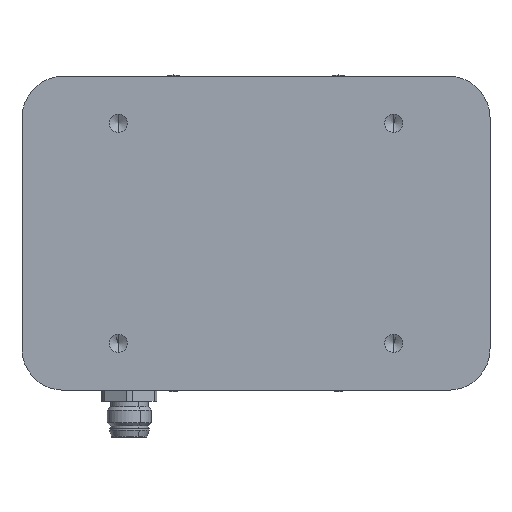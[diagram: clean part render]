
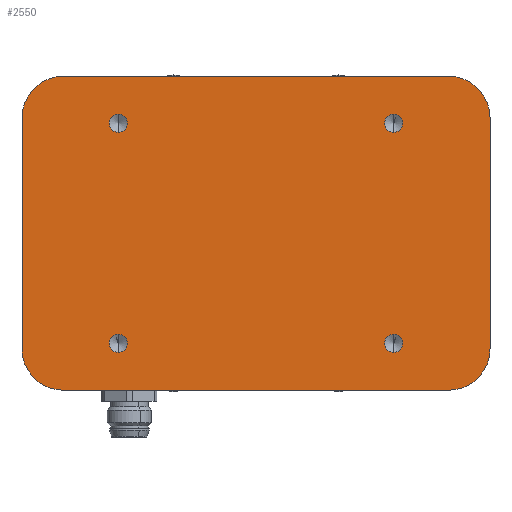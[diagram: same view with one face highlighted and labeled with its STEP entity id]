
A CAD part, front view. The second image highlights one B-rep face of the part: STEP entity #2550.
In plain terms, the highlighted planar face has unit normal (0, -1, 0).
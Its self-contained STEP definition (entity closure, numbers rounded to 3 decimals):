
#4 = AXIS2_PLACEMENT_3D ( 'NONE', #6138, #2638, #4396 ) ;
#73 = CARTESIAN_POINT ( 'NONE',  ( -13.359, 12.047, 12.1 ) ) ;
#135 = DIRECTION ( 'NONE',  ( 1., 0., 0. ) ) ;
#199 = VERTEX_POINT ( 'NONE', #3820 ) ;
#205 = DIRECTION ( 'NONE',  ( 0., -1., 0. ) ) ;
#215 = EDGE_LOOP ( 'NONE', ( #7204, #430 ) ) ;
#256 = AXIS2_PLACEMENT_3D ( 'NONE', #6021, #4292, #4939 ) ;
#316 = CARTESIAN_POINT ( 'NONE',  ( -5.859, 12.047, 12.1 ) ) ;
#363 = FACE_OUTER_BOUND ( 'NONE', #595, .T. ) ;
#364 = ORIENTED_EDGE ( 'NONE', *, *, #2060, .F. ) ;
#373 = LINE ( 'NONE', #2214, #3254 ) ;
#430 = ORIENTED_EDGE ( 'NONE', *, *, #6643, .F. ) ;
#490 = EDGE_CURVE ( 'NONE', #7483, #3399, #1260, .T. ) ;
#595 = EDGE_LOOP ( 'NONE', ( #1897, #6106, #6413, #7272, #5756, #4804, #4907, #3825 ) ) ;
#712 = FACE_BOUND ( 'NONE', #215, .T. ) ;
#734 = LINE ( 'NONE', #73, #6291 ) ;
#790 = CARTESIAN_POINT ( 'NONE',  ( 64.141, 12.047, 61.6 ) ) ;
#886 = AXIS2_PLACEMENT_3D ( 'NONE', #2321, #2280, #1670 ) ;
#967 = CARTESIAN_POINT ( 'NONE',  ( 71.641, 12.047, 19.6 ) ) ;
#1007 = CIRCLE ( 'NONE', #6783, 1.65 ) ;
#1148 = CARTESIAN_POINT ( 'NONE',  ( 54.141, 12.047, 20.6 ) ) ;
#1162 = AXIS2_PLACEMENT_3D ( 'NONE', #790, #205, #135 ) ;
#1205 = CARTESIAN_POINT ( 'NONE',  ( -13.359, 12.047, 69.1 ) ) ;
#1227 = CARTESIAN_POINT ( 'NONE',  ( 4.141, 12.047, 58.95 ) ) ;
#1245 = CARTESIAN_POINT ( 'NONE',  ( 4.141, 12.047, 20.6 ) ) ;
#1260 = CIRCLE ( 'NONE', #4, 1.65 ) ;
#1326 = CIRCLE ( 'NONE', #4143, 7.5 ) ;
#1443 = DIRECTION ( 'NONE',  ( 0., -1., 0. ) ) ;
#1495 = CIRCLE ( 'NONE', #2306, 1.65 ) ;
#1619 = DIRECTION ( 'NONE',  ( 0., 0., -1. ) ) ;
#1665 = EDGE_CURVE ( 'NONE', #7218, #5313, #373, .T. ) ;
#1670 = DIRECTION ( 'NONE',  ( 1., 0., 0. ) ) ;
#1717 = EDGE_CURVE ( 'NONE', #5119, #199, #6182, .T. ) ;
#1721 = VERTEX_POINT ( 'NONE', #2917 ) ;
#1887 = VERTEX_POINT ( 'NONE', #7200 ) ;
#1897 = ORIENTED_EDGE ( 'NONE', *, *, #2996, .F. ) ;
#1937 = CIRCLE ( 'NONE', #3851, 1.65 ) ;
#1947 = ORIENTED_EDGE ( 'NONE', *, *, #5534, .F. ) ;
#1989 = DIRECTION ( 'NONE',  ( 0., -1., 0. ) ) ;
#2056 = FACE_BOUND ( 'NONE', #7480, .T. ) ;
#2060 = EDGE_CURVE ( 'NONE', #199, #5119, #4016, .T. ) ;
#2071 = CARTESIAN_POINT ( 'NONE',  ( 4.141, 12.047, 62.25 ) ) ;
#2074 = DIRECTION ( 'NONE',  ( 1., 0., 0. ) ) ;
#2083 = AXIS2_PLACEMENT_3D ( 'NONE', #4398, #1989, #3876 ) ;
#2136 = DIRECTION ( 'NONE',  ( 0., 0., -1. ) ) ;
#2199 = CARTESIAN_POINT ( 'NONE',  ( 64.141, 12.047, 12.1 ) ) ;
#2207 = EDGE_CURVE ( 'NONE', #4882, #1721, #734, .T. ) ;
#2214 = CARTESIAN_POINT ( 'NONE',  ( 71.641, 12.047, 12.1 ) ) ;
#2280 = DIRECTION ( 'NONE',  ( 0., -1., 0. ) ) ;
#2306 = AXIS2_PLACEMENT_3D ( 'NONE', #1148, #5857, #5809 ) ;
#2321 = CARTESIAN_POINT ( 'NONE',  ( -13.359, 12.047, 12.1 ) ) ;
#2426 = CARTESIAN_POINT ( 'NONE',  ( 54.141, 12.047, 62.25 ) ) ;
#2484 = EDGE_CURVE ( 'NONE', #7148, #2711, #5173, .T. ) ;
#2510 = DIRECTION ( 'NONE',  ( 0., 0., -1. ) ) ;
#2550 = ADVANCED_FACE ( 'NONE', ( #3241, #712, #4974, #2056, #363 ), #5164, .T. ) ;
#2559 = CARTESIAN_POINT ( 'NONE',  ( 54.141, 12.047, 22.25 ) ) ;
#2593 = CIRCLE ( 'NONE', #256, 7.5 ) ;
#2638 = DIRECTION ( 'NONE',  ( 0., -1., 0. ) ) ;
#2711 = VERTEX_POINT ( 'NONE', #2426 ) ;
#2806 = DIRECTION ( 'NONE',  ( 0., 0., 1. ) ) ;
#2835 = EDGE_LOOP ( 'NONE', ( #5234, #6559 ) ) ;
#2851 = EDGE_CURVE ( 'NONE', #1887, #1721, #3543, .T. ) ;
#2917 = CARTESIAN_POINT ( 'NONE',  ( -13.359, 12.047, 61.6 ) ) ;
#2987 = CARTESIAN_POINT ( 'NONE',  ( 54.141, 12.047, 58.95 ) ) ;
#2996 = EDGE_CURVE ( 'NONE', #1887, #5221, #3461, .T. ) ;
#3110 = EDGE_CURVE ( 'NONE', #6406, #6134, #1007, .T. ) ;
#3241 = FACE_BOUND ( 'NONE', #2835, .T. ) ;
#3245 = DIRECTION ( 'NONE',  ( 0., -1., 0. ) ) ;
#3254 = VECTOR ( 'NONE', #2806, 1000. ) ;
#3358 = AXIS2_PLACEMENT_3D ( 'NONE', #1245, #4101, #5856 ) ;
#3399 = VERTEX_POINT ( 'NONE', #3943 ) ;
#3461 = LINE ( 'NONE', #1205, #4636 ) ;
#3543 = CIRCLE ( 'NONE', #5564, 7.5 ) ;
#3700 = DIRECTION ( 'NONE',  ( 0., -1., 0. ) ) ;
#3705 = CIRCLE ( 'NONE', #1162, 7.5 ) ;
#3737 = DIRECTION ( 'NONE',  ( 1., 0., 0. ) ) ;
#3765 = CARTESIAN_POINT ( 'NONE',  ( -13.359, 12.047, 12.1 ) ) ;
#3820 = CARTESIAN_POINT ( 'NONE',  ( 4.141, 12.047, 18.95 ) ) ;
#3825 = ORIENTED_EDGE ( 'NONE', *, *, #4705, .T. ) ;
#3851 = AXIS2_PLACEMENT_3D ( 'NONE', #7265, #1443, #6117 ) ;
#3876 = DIRECTION ( 'NONE',  ( 0., 0., -1. ) ) ;
#3907 = DIRECTION ( 'NONE',  ( 0., -1., 0. ) ) ;
#3935 = DIRECTION ( 'NONE',  ( 0., -1., 0. ) ) ;
#3943 = CARTESIAN_POINT ( 'NONE',  ( 54.141, 12.047, 18.95 ) ) ;
#4016 = CIRCLE ( 'NONE', #2083, 1.65 ) ;
#4064 = LINE ( 'NONE', #3765, #7161 ) ;
#4101 = DIRECTION ( 'NONE',  ( 0., -1., 0. ) ) ;
#4106 = DIRECTION ( 'NONE',  ( 0., 0., 1. ) ) ;
#4143 = AXIS2_PLACEMENT_3D ( 'NONE', #7331, #3245, #2074 ) ;
#4230 = AXIS2_PLACEMENT_3D ( 'NONE', #7361, #3907, #2136 ) ;
#4234 = CARTESIAN_POINT ( 'NONE',  ( 4.141, 12.047, 22.25 ) ) ;
#4292 = DIRECTION ( 'NONE',  ( 0., -1., 0. ) ) ;
#4356 = CARTESIAN_POINT ( 'NONE',  ( 64.141, 12.047, 69.1 ) ) ;
#4396 = DIRECTION ( 'NONE',  ( 0., 0., -1. ) ) ;
#4398 = CARTESIAN_POINT ( 'NONE',  ( 4.141, 12.047, 20.6 ) ) ;
#4532 = VERTEX_POINT ( 'NONE', #2199 ) ;
#4636 = VECTOR ( 'NONE', #6428, 1000. ) ;
#4656 = EDGE_LOOP ( 'NONE', ( #364, #5752 ) ) ;
#4705 = EDGE_CURVE ( 'NONE', #5313, #5221, #3705, .T. ) ;
#4799 = ORIENTED_EDGE ( 'NONE', *, *, #490, .F. ) ;
#4804 = ORIENTED_EDGE ( 'NONE', *, *, #6034, .T. ) ;
#4829 = CARTESIAN_POINT ( 'NONE',  ( 4.141, 12.047, 60.6 ) ) ;
#4835 = CARTESIAN_POINT ( 'NONE',  ( -13.359, 12.047, 19.6 ) ) ;
#4856 = AXIS2_PLACEMENT_3D ( 'NONE', #7410, #3935, #1619 ) ;
#4882 = VERTEX_POINT ( 'NONE', #4835 ) ;
#4890 = EDGE_CURVE ( 'NONE', #4882, #6568, #1326, .T. ) ;
#4907 = ORIENTED_EDGE ( 'NONE', *, *, #1665, .T. ) ;
#4939 = DIRECTION ( 'NONE',  ( 1., 0., 0. ) ) ;
#4974 = FACE_BOUND ( 'NONE', #4656, .T. ) ;
#5119 = VERTEX_POINT ( 'NONE', #4234 ) ;
#5164 = PLANE ( 'NONE',  #886 ) ;
#5173 = CIRCLE ( 'NONE', #4856, 1.65 ) ;
#5221 = VERTEX_POINT ( 'NONE', #4356 ) ;
#5234 = ORIENTED_EDGE ( 'NONE', *, *, #2484, .F. ) ;
#5313 = VERTEX_POINT ( 'NONE', #5561 ) ;
#5534 = EDGE_CURVE ( 'NONE', #3399, #7483, #1495, .T. ) ;
#5561 = CARTESIAN_POINT ( 'NONE',  ( 71.641, 12.047, 61.6 ) ) ;
#5564 = AXIS2_PLACEMENT_3D ( 'NONE', #6780, #7396, #6404 ) ;
#5732 = EDGE_CURVE ( 'NONE', #6568, #4532, #4064, .T. ) ;
#5752 = ORIENTED_EDGE ( 'NONE', *, *, #1717, .F. ) ;
#5756 = ORIENTED_EDGE ( 'NONE', *, *, #5732, .T. ) ;
#5809 = DIRECTION ( 'NONE',  ( 0., 0., -1. ) ) ;
#5856 = DIRECTION ( 'NONE',  ( 0., 0., -1. ) ) ;
#5857 = DIRECTION ( 'NONE',  ( 0., -1., 0. ) ) ;
#6021 = CARTESIAN_POINT ( 'NONE',  ( 64.141, 12.047, 19.6 ) ) ;
#6034 = EDGE_CURVE ( 'NONE', #4532, #7218, #2593, .T. ) ;
#6106 = ORIENTED_EDGE ( 'NONE', *, *, #2851, .T. ) ;
#6117 = DIRECTION ( 'NONE',  ( 0., 0., -1. ) ) ;
#6134 = VERTEX_POINT ( 'NONE', #2071 ) ;
#6138 = CARTESIAN_POINT ( 'NONE',  ( 54.141, 12.047, 20.6 ) ) ;
#6182 = CIRCLE ( 'NONE', #3358, 1.65 ) ;
#6291 = VECTOR ( 'NONE', #4106, 1000. ) ;
#6404 = DIRECTION ( 'NONE',  ( 1., 0., 0. ) ) ;
#6406 = VERTEX_POINT ( 'NONE', #1227 ) ;
#6413 = ORIENTED_EDGE ( 'NONE', *, *, #2207, .F. ) ;
#6428 = DIRECTION ( 'NONE',  ( 1., 0., 0. ) ) ;
#6516 = CIRCLE ( 'NONE', #4230, 1.65 ) ;
#6559 = ORIENTED_EDGE ( 'NONE', *, *, #6657, .F. ) ;
#6568 = VERTEX_POINT ( 'NONE', #316 ) ;
#6643 = EDGE_CURVE ( 'NONE', #6134, #6406, #1937, .T. ) ;
#6657 = EDGE_CURVE ( 'NONE', #2711, #7148, #6516, .T. ) ;
#6780 = CARTESIAN_POINT ( 'NONE',  ( -5.859, 12.047, 61.6 ) ) ;
#6783 = AXIS2_PLACEMENT_3D ( 'NONE', #4829, #3700, #2510 ) ;
#7148 = VERTEX_POINT ( 'NONE', #2987 ) ;
#7161 = VECTOR ( 'NONE', #3737, 1000. ) ;
#7200 = CARTESIAN_POINT ( 'NONE',  ( -5.859, 12.047, 69.1 ) ) ;
#7204 = ORIENTED_EDGE ( 'NONE', *, *, #3110, .F. ) ;
#7218 = VERTEX_POINT ( 'NONE', #967 ) ;
#7265 = CARTESIAN_POINT ( 'NONE',  ( 4.141, 12.047, 60.6 ) ) ;
#7272 = ORIENTED_EDGE ( 'NONE', *, *, #4890, .T. ) ;
#7331 = CARTESIAN_POINT ( 'NONE',  ( -5.859, 12.047, 19.6 ) ) ;
#7361 = CARTESIAN_POINT ( 'NONE',  ( 54.141, 12.047, 60.6 ) ) ;
#7396 = DIRECTION ( 'NONE',  ( 0., -1., 0. ) ) ;
#7410 = CARTESIAN_POINT ( 'NONE',  ( 54.141, 12.047, 60.6 ) ) ;
#7480 = EDGE_LOOP ( 'NONE', ( #1947, #4799 ) ) ;
#7483 = VERTEX_POINT ( 'NONE', #2559 ) ;
